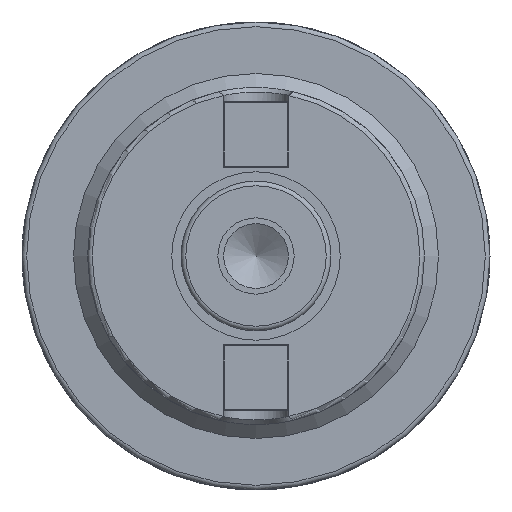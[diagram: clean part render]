
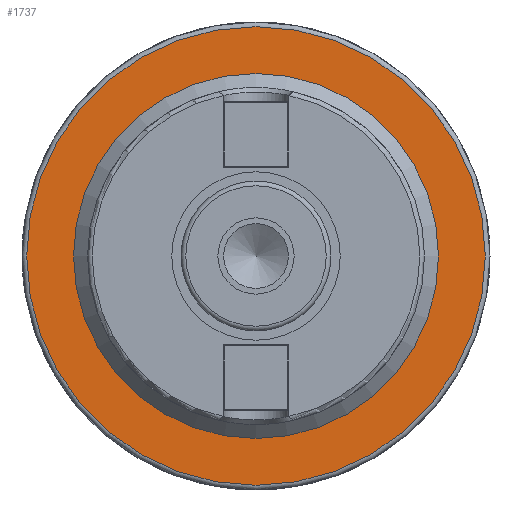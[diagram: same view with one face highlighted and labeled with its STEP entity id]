
A CAD part, front view. The second image highlights one B-rep face of the part: STEP entity #1737.
In plain terms, the highlighted planar face has unit normal (0, -1, 0).
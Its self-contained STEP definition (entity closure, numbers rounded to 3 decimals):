
#179=FACE_BOUND('',#354,.T.);
#195=PLANE('',#1917);
#242=FACE_OUTER_BOUND('',#353,.T.);
#353=EDGE_LOOP('',(#1216));
#354=EDGE_LOOP('',(#1217));
#695=CIRCLE('',#1916,39.);
#696=CIRCLE('',#1918,49.);
#792=VERTEX_POINT('',#2667);
#793=VERTEX_POINT('',#2671);
#958=EDGE_CURVE('',#792,#792,#695,.T.);
#959=EDGE_CURVE('',#793,#793,#696,.T.);
#1216=ORIENTED_EDGE('',*,*,#959,.F.);
#1217=ORIENTED_EDGE('',*,*,#958,.F.);
#1737=ADVANCED_FACE('',(#242,#179),#195,.T.);
#1916=AXIS2_PLACEMENT_3D('',#2669,#2136,#2137);
#1917=AXIS2_PLACEMENT_3D('',#2670,#2138,#2139);
#1918=AXIS2_PLACEMENT_3D('',#2672,#2140,#2141);
#2136=DIRECTION('center_axis',(0.,-1.,0.));
#2137=DIRECTION('ref_axis',(-1.,0.,0.));
#2138=DIRECTION('center_axis',(0.,-1.,0.));
#2139=DIRECTION('ref_axis',(0.,0.,-1.));
#2140=DIRECTION('center_axis',(0.,1.,0.));
#2141=DIRECTION('ref_axis',(-1.,0.,0.));
#2667=CARTESIAN_POINT('',(39.,184.,0.));
#2669=CARTESIAN_POINT('Origin',(0.,184.,0.));
#2670=CARTESIAN_POINT('Origin',(36.,184.,0.));
#2671=CARTESIAN_POINT('',(0.,184.,49.));
#2672=CARTESIAN_POINT('Origin',(0.,184.,0.));
